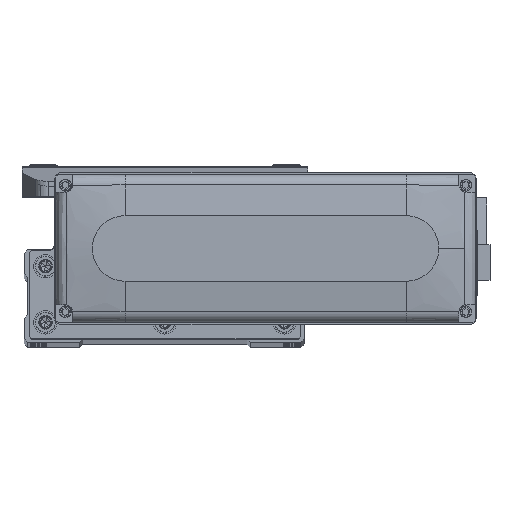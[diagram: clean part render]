
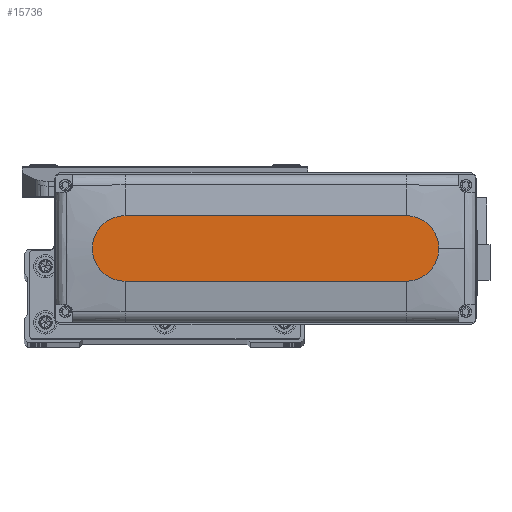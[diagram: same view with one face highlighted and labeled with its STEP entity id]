
A CAD part, top view. The second image highlights one B-rep face of the part: STEP entity #15736.
In plain terms, the highlighted planar face has unit normal (0, 0, 1).
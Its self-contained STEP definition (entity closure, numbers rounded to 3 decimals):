
#205 = CARTESIAN_POINT ( 'NONE',  ( 60., 0., 28.5 ) ) ;
#2235 = EDGE_CURVE ( 'NONE', #46205, #27016, #27865, .T. ) ;
#5681 = CARTESIAN_POINT ( 'NONE',  ( 60., 14., 28.5 ) ) ;
#6608 = AXIS2_PLACEMENT_3D ( 'NONE', #13240, #28269, #43338 ) ;
#6707 = ORIENTED_EDGE ( 'NONE', *, *, #16758, .T. ) ;
#8079 = CARTESIAN_POINT ( 'NONE',  ( 0., 0., 28.5 ) ) ;
#8188 = CARTESIAN_POINT ( 'NONE',  ( -60., 14., 28.5 ) ) ;
#9028 = ORIENTED_EDGE ( 'NONE', *, *, #2235, .T. ) ;
#10120 = CARTESIAN_POINT ( 'NONE',  ( 74., 0., 28.5 ) ) ;
#11806 = VERTEX_POINT ( 'NONE', #35247 ) ;
#13140 = VECTOR ( 'NONE', #23218, 1000. ) ;
#13240 = CARTESIAN_POINT ( 'NONE',  ( 60., 0., 28.5 ) ) ;
#13570 = EDGE_CURVE ( 'NONE', #25674, #11806, #41979, .T. ) ;
#13689 = DIRECTION ( 'NONE',  ( 0., 0., 1. ) ) ;
#15143 = VECTOR ( 'NONE', #45271, 1000. ) ;
#15170 = LINE ( 'NONE', #30217, #15143 ) ;
#15241 = DIRECTION ( 'NONE',  ( 0., 0., 1. ) ) ;
#15736 = ADVANCED_FACE ( 'NONE', ( #26810 ), #41864, .T. ) ;
#16402 = VERTEX_POINT ( 'NONE', #40277 ) ;
#16679 = CIRCLE ( 'NONE', #44270, 14. ) ;
#16758 = EDGE_CURVE ( 'NONE', #27016, #25674, #16679, .T. ) ;
#17901 = CIRCLE ( 'NONE', #45485, 14. ) ;
#19689 = ORIENTED_EDGE ( 'NONE', *, *, #44180, .T. ) ;
#21670 = EDGE_LOOP ( 'NONE', ( #29894, #38009, #19689, #9028, #6707 ) ) ;
#23119 = DIRECTION ( 'NONE',  ( 0., 0., 1. ) ) ;
#23218 = DIRECTION ( 'NONE',  ( -1., 0., 0. ) ) ;
#24459 = AXIS2_PLACEMENT_3D ( 'NONE', #8079, #23119, #38142 ) ;
#25674 = VERTEX_POINT ( 'NONE', #5681 ) ;
#26810 = FACE_OUTER_BOUND ( 'NONE', #21670, .T. ) ;
#27016 = VERTEX_POINT ( 'NONE', #10120 ) ;
#27865 = CIRCLE ( 'NONE', #6608, 14. ) ;
#28269 = DIRECTION ( 'NONE',  ( 0., 0., 1. ) ) ;
#28718 = DIRECTION ( 'NONE',  ( 1., 0., 0. ) ) ;
#29894 = ORIENTED_EDGE ( 'NONE', *, *, #13570, .T. ) ;
#30217 = CARTESIAN_POINT ( 'NONE',  ( -60., -14., 28.5 ) ) ;
#30279 = DIRECTION ( 'NONE',  ( 1., 0., 0. ) ) ;
#35247 = CARTESIAN_POINT ( 'NONE',  ( -60., 14., 28.5 ) ) ;
#35906 = EDGE_CURVE ( 'NONE', #11806, #16402, #17901, .T. ) ;
#37531 = CARTESIAN_POINT ( 'NONE',  ( 60., -14., 28.5 ) ) ;
#38009 = ORIENTED_EDGE ( 'NONE', *, *, #35906, .T. ) ;
#38142 = DIRECTION ( 'NONE',  ( 1., 0., 0. ) ) ;
#40277 = CARTESIAN_POINT ( 'NONE',  ( -60., -14., 28.5 ) ) ;
#41864 = PLANE ( 'NONE',  #24459 ) ;
#41979 = LINE ( 'NONE', #8188, #13140 ) ;
#43338 = DIRECTION ( 'NONE',  ( 1., 0., 0. ) ) ;
#44180 = EDGE_CURVE ( 'NONE', #16402, #46205, #15170, .T. ) ;
#44270 = AXIS2_PLACEMENT_3D ( 'NONE', #205, #15241, #30279 ) ;
#45271 = DIRECTION ( 'NONE',  ( 1., 0., 0. ) ) ;
#45485 = AXIS2_PLACEMENT_3D ( 'NONE', #47476, #13689, #28718 ) ;
#46205 = VERTEX_POINT ( 'NONE', #37531 ) ;
#47476 = CARTESIAN_POINT ( 'NONE',  ( -60., 0., 28.5 ) ) ;
